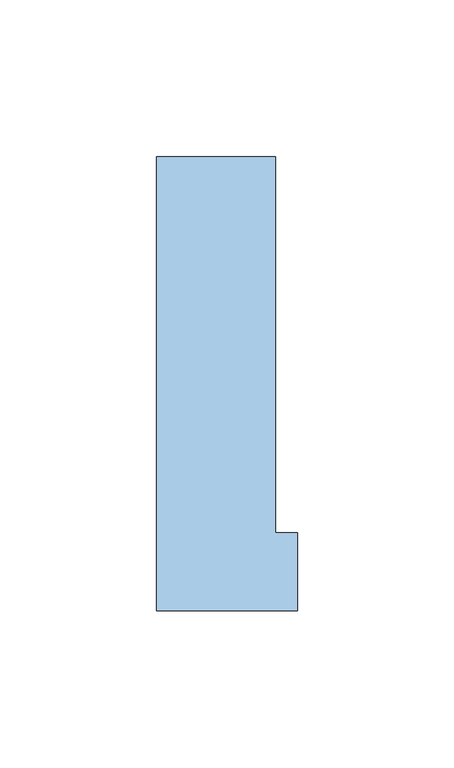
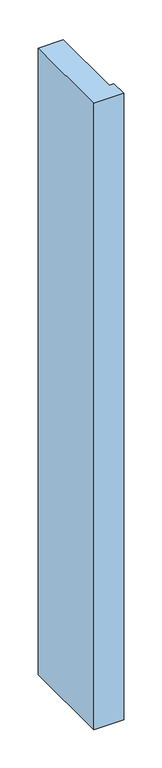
"""IFC4 building model written with IfcOpenShell, lengths in millimetres: window geometry, NLRS_30_WIN_spouwlat-zijstijll_sh_gen_TOBA-JM : ok-bk-recht-45x145."""

from ifc_helpers import new_model, si_unit, origin, origin_with_axes, place, context, project, spatial, polyline, outline, extrude, source, transform, mapped, element, save


def window_43f0fc4d(model_context):
    return source(origin(), model_context, "Body", "SweptSolid", [
        extrude(outline(polyline([(-38.0, 145.0), (0.0, 145.0), (0.0, 25.0), (7.0, 25.0), (7.0, 0.0), (-38.0, 0.0), (-38.0, 145.0)])), origin_with_axes(), (0.0, 0.0, 1.0), 1000.0),
    ])


if __name__ == "__main__":
    model = new_model("IFC4")
    model_context = context("Model", 3, world=origin())
    ifc_project = project(units=[si_unit("LENGTHUNIT", "METRE", prefix="MILLI")], contexts=[model_context])
    site = spatial("IfcSite", under=ifc_project)
    building = spatial("IfcBuilding", under=site)
    placement = place(None, origin())
    window_shape = window_43f0fc4d(model_context)
    element("IfcWindow", 1, ObjectType="NLRS_30_WIN_spouwlat-zijstijll_sh_gen_TOBA-JM : ok-bk-recht-45x145", at=placement, inside=building, context=model_context, shape_type="MappedRepresentation", body=[
        mapped(window_shape, transform((0.0, 0.0, 0.0), x_axis=(1.0, 0.0, 0.0), y_axis=(0.0, 1.0, 0.0), z_axis=(0.0, 0.0, 1.0))),
    ])
    save(model, "model.ifc")
